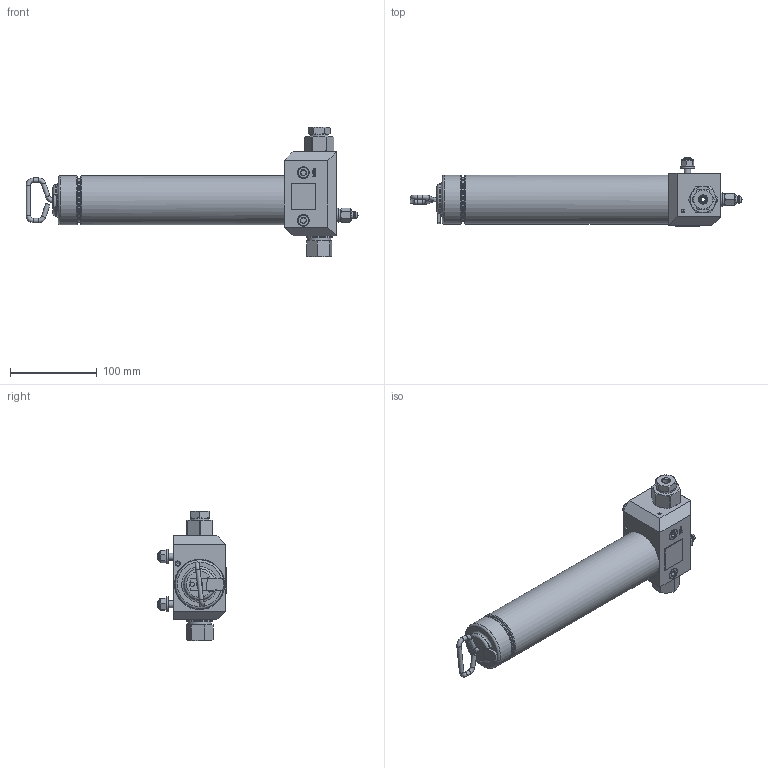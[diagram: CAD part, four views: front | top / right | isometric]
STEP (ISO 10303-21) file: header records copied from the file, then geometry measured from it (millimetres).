
FILE_DESCRIPTION(/* description */ ('Unknown'),/* implementation_level */ '2;1');
FILE_NAME(/* name */ 'MGH-SPLN-KX0000_363127',/* time_stamp */ '2024-12-02T08:22:42+02:00',/* author */ ('Unknown'),/* organization */ ('Unknown'),/* preprocessor_version */ 'ST-DEVELOPER v16.7',/* originating_system */ 'Solid Edge',/* authorisation */ 'Unknown');
FILE_SCHEMA (('AUTOMOTIVE_DESIGN {1 0 10303 214 3 1 1}'));
Length unit declared in the file: millimetre
Products named in the file (1): MGH-SPLN-KX0000_363127
Bounding box: 382.36 x 78.5 x 149.3 mm (x, y, z)
Volume: 359946 mm3; surface area: 187090.2 mm2
Topology: 21 solids, 21 shells, 473 faces, 1041 edges, 656 vertices
Faces by surface type: plane 185, cylinder 119, cone 100, bspline 39, torus 29, sphere 1
Full cylindrical faces by diameter (mm): 1.667 x1, 4.5 x1, 4.917 x1, 5 x7, 5.01 x2, 6 x2, 6.2 x1, 6.5 x1, 6.647 x2, 7.2 x1, 7.8 x1, 7.925 x1, 8 x4, 8.3 x1, 8.4 x2, 8.5 x2, 8.566 x2, 8.7 x1, 8.915 x1, 9.382 x2, 9.728 x1, 10.2 x1, 10.9 x1, 11.445 x1, 11.5 x2, 11.7 x1, 12.5 x2, 13 x2, 13.5 x3, 14 x1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
Entity records: 16038 total; most frequent: CARTESIAN_POINT 6091, DIRECTION 1760, ORIENTED_EDGE 1602, EDGE_CURVE 801, AXIS2_PLACEMENT_3D 760, FACE_BOUND 727, EDGE_LOOP 725, VERTEX_POINT 592
